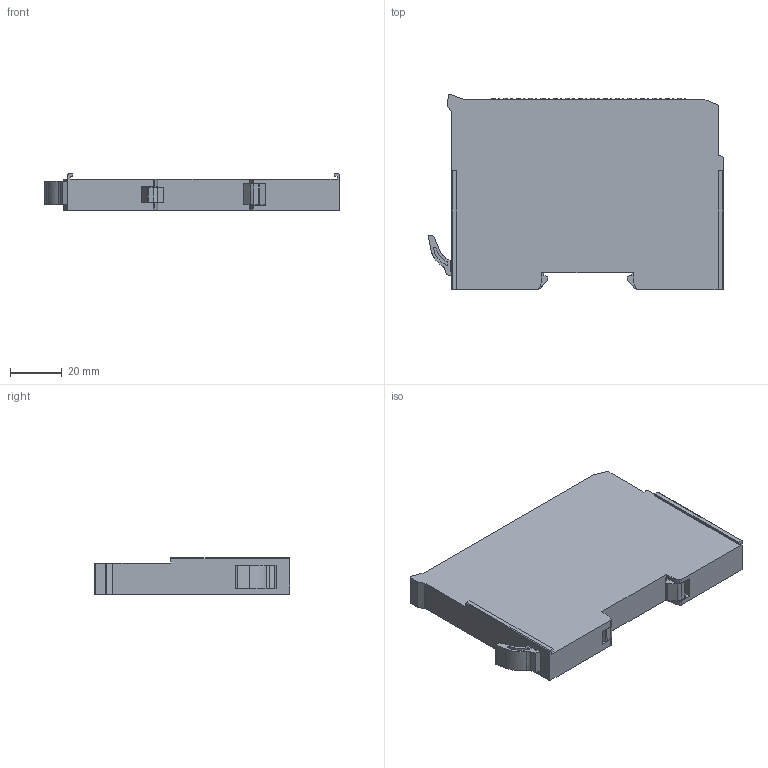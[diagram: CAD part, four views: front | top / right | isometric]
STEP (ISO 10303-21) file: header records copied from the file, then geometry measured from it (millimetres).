
FILE_DESCRIPTION(('CATIA V5 STEP Exchange','CAx-IF Rec.Pracs.--- Model Styling and Organization---1.5--- 2016-08-15','CAx-IF Rec.Pracs.---Supplemental Geometry---1.0---2011-11-01','CAx-IF Rec.Pracs.--- Composite Materials ---1.1---2010-07-15'),'2;1');
FILE_NAME('C:\Users\wcn0252\Weidmueller Interface GmbH & Co. KG\Division Support - Documents\APS\QL20\QL20-IO_Module_16P.stp','2025-05-29T05:16:34+00:00',('none'),('none'),'CATIA Version 5-6 Release 2022 SP4 HF5','CATIA V5 STEP AP214 v3','none');
FILE_SCHEMA(('AUTOMOTIVE_DESIGN { 1 0 10303 214 1 1 1 1 }'));
Length unit declared in the file: millimetre
Products named in the file (1): QL20-IO_Module
Bounding box: 113.94 x 75.4 x 14 mm (x, y, z)
Volume: 88460.2 mm3; surface area: 23202.4 mm2
Topology: 1 solids, 1 shells, 855 faces, 2507 edges, 1673 vertices
Faces by surface type: plane 623, cylinder 231, extrusion 1
Entity records: 27727 total; most frequent: CARTESIAN_POINT 5060, ORIENTED_EDGE 5014, DIRECTION 3725, EDGE_CURVE 2507, VECTOR 2006, LINE 2005, VERTEX_POINT 1673, AXIS2_PLACEMENT_3D 1073
